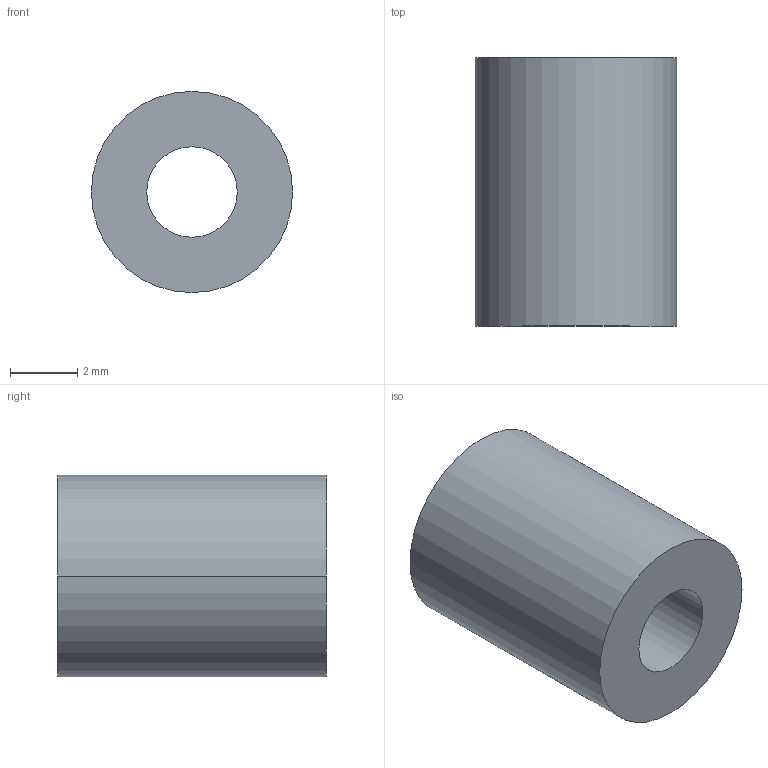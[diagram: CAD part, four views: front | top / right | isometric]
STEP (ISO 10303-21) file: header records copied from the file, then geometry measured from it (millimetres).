
FILE_DESCRIPTION (( 'STEP AP203' ), '1' );
FILE_NAME ('30800.WPP6B2.7.step', '2019-01-23T22:17:29', ( '' ), ( '' ), 'SwSTEP 2.0', 'SolidWorks 2017', '' );
FILE_SCHEMA (( 'CONFIG_CONTROL_DESIGN' ));
Length unit declared in the file: millimetre
Products named in the file (1): 30800.WPP6B2.7
Bounding box: 6 x 8 x 6 mm (x, y, z)
Volume: 178.3 mm3; surface area: 260.6 mm2
Topology: 1 solids, 1 shells, 8 faces, 16 edges, 10 vertices
Faces by surface type: cylinder 4, torus 2, plane 2
Entity records: 297 total; most frequent: DIRECTION 46, CARTESIAN_POINT 35, ORIENTED_EDGE 32, AXIS2_PLACEMENT_3D 21, EDGE_CURVE 16, CIRCLE 12, EDGE_LOOP 10, VERTEX_POINT 10
